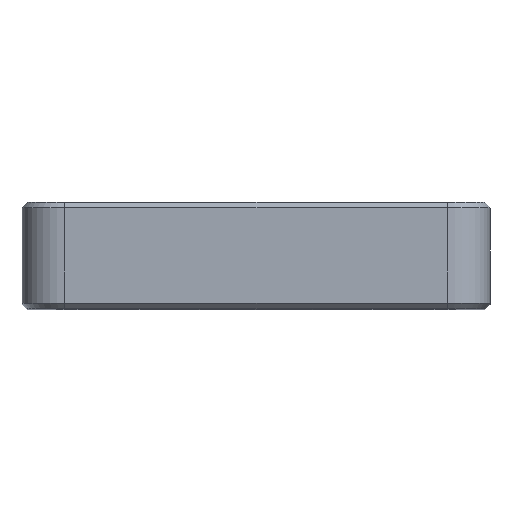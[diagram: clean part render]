
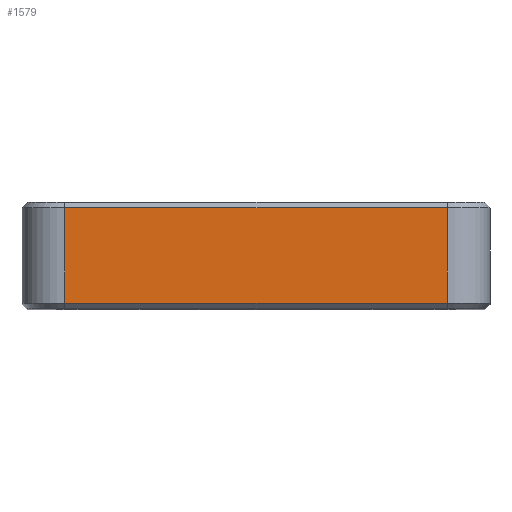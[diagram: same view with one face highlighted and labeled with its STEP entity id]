
A CAD part, top view. The second image highlights one B-rep face of the part: STEP entity #1579.
In plain terms, the highlighted planar face has unit normal (0, 0, 1).
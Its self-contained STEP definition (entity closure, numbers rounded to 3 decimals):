
#116=PLANE('',#1758);
#202=FACE_OUTER_BOUND('',#319,.T.);
#319=EDGE_LOOP('',(#1444,#1445,#1446,#1447));
#517=LINE('',#2590,#657);
#537=LINE('',#2657,#677);
#544=LINE('',#2672,#684);
#545=LINE('',#2674,#685);
#657=VECTOR('',#2117,10.);
#677=VECTOR('',#2199,10.);
#684=VECTOR('',#2220,10.);
#685=VECTOR('',#2223,10.);
#799=VERTEX_POINT('',#2580);
#801=VERTEX_POINT('',#2586);
#817=VERTEX_POINT('',#2651);
#818=VERTEX_POINT('',#2655);
#990=EDGE_CURVE('',#799,#801,#517,.T.);
#1024=EDGE_CURVE('',#817,#818,#537,.T.);
#1032=EDGE_CURVE('',#818,#799,#544,.T.);
#1033=EDGE_CURVE('',#817,#801,#545,.T.);
#1444=ORIENTED_EDGE('',*,*,#990,.F.);
#1445=ORIENTED_EDGE('',*,*,#1032,.F.);
#1446=ORIENTED_EDGE('',*,*,#1024,.F.);
#1447=ORIENTED_EDGE('',*,*,#1033,.T.);
#1579=ADVANCED_FACE('',(#202),#116,.T.);
#1758=AXIS2_PLACEMENT_3D('',#2673,#2221,#2222);
#2117=DIRECTION('',(-1.,0.,0.));
#2199=DIRECTION('',(1.,0.,0.));
#2220=DIRECTION('',(0.,-1.,0.));
#2221=DIRECTION('center_axis',(0.,0.,
1.));
#2222=DIRECTION('ref_axis',(1.,0.,0.));
#2223=DIRECTION('',(0.,-1.,0.));
#2580=CARTESIAN_POINT('',(-39.,45.5,33.5));
#2586=CARTESIAN_POINT('',(-75.,45.5,33.5));
#2590=CARTESIAN_POINT('',(-68.,45.5,33.5));
#2651=CARTESIAN_POINT('',(-75.,54.5,33.5));
#2655=CARTESIAN_POINT('',(-39.,54.5,33.5));
#2657=CARTESIAN_POINT('',(-68.,54.5,33.5));
#2672=CARTESIAN_POINT('',(-39.,50.,33.5));
#2673=CARTESIAN_POINT('Origin',(-79.,50.,33.5));
#2674=CARTESIAN_POINT('',(-75.,50.,33.5));
